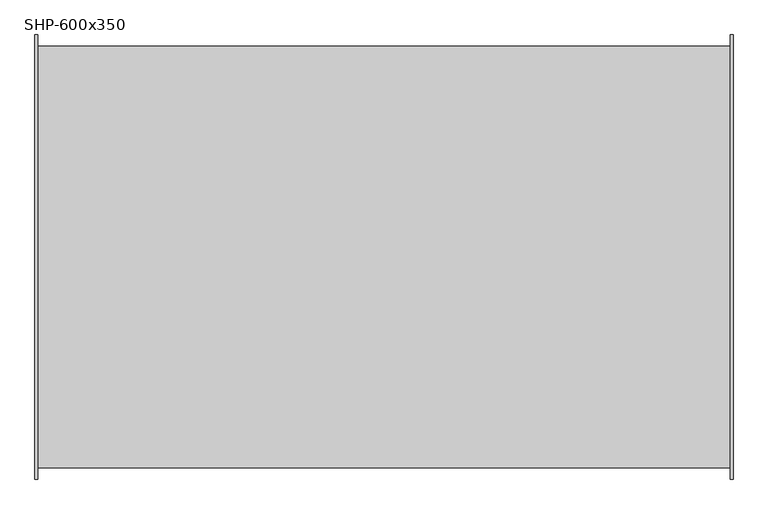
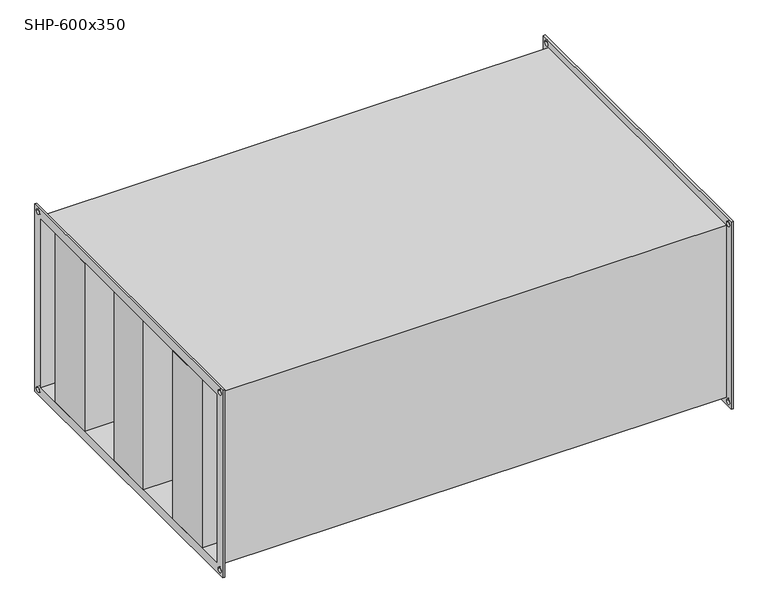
"""IFC4 building model written with IfcOpenShell, lengths in millimetres: damper geometry, СВ_Шумоглушитель_КанальныйПрямоугольный_200-1000_SHP : SHP-600x350."""

from ifc_helpers import new_model, si_unit, frame, origin, place, context, project, spatial, polyline, circle_curve, outline, extrude, source, transform, mapped, element, save
from ifc_brep_helpers import plane_surface, revolved_surface, advanced_brep


def shp_600x350_d1743a3e(model_context):
    return source(origin(), model_context, "Body", "SolidModel", [
        extrude(outline(polyline([(502.5, 250.0), (502.5, 150.0), (-502.5, 150.0), (-502.5, 250.0), (502.5, 250.0)])), frame((0.0, 0.0, -175.0), z_axis=(0.0, 0.0, 1.0), x_axis=(1.0, 0.0, 0.0)), (0.0, 0.0, 1.0), 350.0),
        extrude(outline(polyline([(502.5, 50.0), (502.5, -50.0), (-502.5, -50.0), (-502.5, 50.0), (502.5, 50.0)])), frame((0.0, 0.0, -175.0), z_axis=(0.0, 0.0, 1.0), x_axis=(1.0, 0.0, 0.0)), (0.0, 0.0, 1.0), 350.0),
        extrude(outline(polyline([(502.5, -150.0), (502.5, -250.0), (-502.5, -250.0), (-502.5, -150.0), (502.5, -150.0)])), frame((0.0, 0.0, -175.0), z_axis=(0.0, 0.0, 1.0), x_axis=(1.0, 0.0, 0.0)), (0.0, 0.0, 1.0), 350.0),
        advanced_brep(
        [(498.5, -304.0, 179.0), (-498.5, -304.0, 179.0), (-498.5, -304.0, -179.0), (498.5, -304.0, -179.0), (-498.5, 304.0, -179.0), (498.5, 304.0, -179.0), (-498.5, 304.0, 179.0), (498.5, 304.0, 179.0), (-502.5, -320.0, 195.0), (-502.5, 320.0, 195.0), (-502.5, 320.0, -195.0), (-502.5, -320.0, -195.0), (-502.5, -300.0, 175.0), (-502.5, -300.0, -175.0), (-502.5, 300.0, -175.0), (-502.5, 300.0, 175.0), (-502.5, 305.0, 185.0), (-502.5, 315.0, 185.0), (-502.5, -315.0, 185.0), (-502.5, -305.0, 185.0), (-502.5, -315.0, -185.0), (-502.5, -305.0, -185.0), (-502.5, 305.0, -185.0), (-502.5, 315.0, -185.0), (-498.5, -320.0, 195.0), (-498.5, -320.0, -195.0), (-498.5, 320.0, -195.0), (-498.5, 320.0, 195.0), (-498.5, 315.0, 185.0), (-498.5, 305.0, 185.0), (-498.5, -305.0, 185.0), (-498.5, -315.0, 185.0), (-498.5, -305.0, -185.0), (-498.5, -315.0, -185.0), (-498.5, 315.0, -185.0), (-498.5, 305.0, -185.0), (498.5, 320.0, 195.0), (498.5, 320.0, -195.0), (498.5, -320.0, -195.0), (498.5, -320.0, 195.0), (498.5, 305.0, 185.0), (498.5, 315.0, 185.0), (498.5, -315.0, 185.0), (498.5, -305.0, 185.0), (498.5, -315.0, -185.0), (498.5, -305.0, -185.0), (498.5, 305.0, -185.0), (498.5, 315.0, -185.0), (502.5, 320.0, 195.0), (502.5, -320.0, 195.0), (502.5, -320.0, -195.0), (502.5, 320.0, -195.0), (502.5, 300.0, 175.0), (502.5, 300.0, -175.0), (502.5, -300.0, -175.0), (502.5, -300.0, 175.0), (502.5, 315.0, 185.0), (502.5, 305.0, 185.0), (502.5, -305.0, 185.0), (502.5, -315.0, 185.0), (502.5, -305.0, -185.0), (502.5, -315.0, -185.0), (502.5, 315.0, -185.0), (502.5, 305.0, -185.0)],
        [
            (0, 1),
            (1, 2),
            (2, 3),
            (3, 0),
            (2, 4),
            (4, 5),
            (5, 3),
            (4, 6),
            (6, 7),
            (7, 5),
            (0, 7),
            (6, 1),
            (8, 9),
            (9, 10),
            (10, 11),
            (11, 8),
            (12, 13),
            (13, 14),
            (14, 15),
            (15, 12),
            (16, 17, circle_curve(frame((-502.5, 310.0, 185.0), z_axis=(1.0, 0.0, 0.0), x_axis=(0.0, 1.0, 0.0)), 5.0)),
            (17, 16, circle_curve(frame((-502.5, 310.0, 185.0), z_axis=(1.0, 0.0, 0.0), x_axis=(0.0, 1.0, 0.0)), 5.0)),
            (18, 19, circle_curve(frame((-502.5, -310.0, 185.0), z_axis=(1.0, 0.0, 0.0), x_axis=(0.0, 1.0, 0.0)), 5.0)),
            (19, 18, circle_curve(frame((-502.5, -310.0, 185.0), z_axis=(1.0, 0.0, 0.0), x_axis=(0.0, 1.0, 0.0)), 5.0)),
            (20, 21, circle_curve(frame((-502.5, -310.0, -185.0), z_axis=(1.0, 0.0, 0.0), x_axis=(0.0, 1.0, 0.0)), 5.0)),
            (21, 20, circle_curve(frame((-502.5, -310.0, -185.0), z_axis=(1.0, 0.0, 0.0), x_axis=(0.0, 1.0, 0.0)), 5.0)),
            (22, 23, circle_curve(frame((-502.5, 310.0, -185.0), z_axis=(1.0, 0.0, 0.0), x_axis=(0.0, 1.0, 0.0)), 5.0)),
            (23, 22, circle_curve(frame((-502.5, 310.0, -185.0), z_axis=(1.0, 0.0, 0.0), x_axis=(0.0, 1.0, 0.0)), 5.0)),
            (24, 25),
            (25, 26),
            (26, 27),
            (27, 24),
            (28, 29, circle_curve(frame((-498.5, 310.0, 185.0), z_axis=(-1.0, 0.0, 0.0), x_axis=(0.0, 1.0, 0.0)), 5.0)),
            (29, 28, circle_curve(frame((-498.5, 310.0, 185.0), z_axis=(-1.0, 0.0, 0.0), x_axis=(0.0, 1.0, 0.0)), 5.0)),
            (30, 31, circle_curve(frame((-498.5, -310.0, 185.0), z_axis=(-1.0, 0.0, 0.0), x_axis=(0.0, 1.0, 0.0)), 5.0)),
            (31, 30, circle_curve(frame((-498.5, -310.0, 185.0), z_axis=(-1.0, 0.0, 0.0), x_axis=(0.0, 1.0, 0.0)), 5.0)),
            (32, 33, circle_curve(frame((-498.5, -310.0, -185.0), z_axis=(-1.0, 0.0, 0.0), x_axis=(0.0, 1.0, 0.0)), 5.0)),
            (33, 32, circle_curve(frame((-498.5, -310.0, -185.0), z_axis=(-1.0, 0.0, 0.0), x_axis=(0.0, 1.0, 0.0)), 5.0)),
            (34, 35, circle_curve(frame((-498.5, 310.0, -185.0), z_axis=(-1.0, 0.0, 0.0), x_axis=(0.0, 1.0, 0.0)), 5.0)),
            (35, 34, circle_curve(frame((-498.5, 310.0, -185.0), z_axis=(-1.0, 0.0, 0.0), x_axis=(0.0, 1.0, 0.0)), 5.0)),
            (11, 25),
            (24, 8),
            (10, 26),
            (9, 27),
            (36, 37),
            (37, 38),
            (38, 39),
            (39, 36),
            (40, 41, circle_curve(frame((498.5, 310.0, 185.0), z_axis=(1.0, 0.0, 0.0), x_axis=(0.0, 1.0, 0.0)), 5.0)),
            (41, 40, circle_curve(frame((498.5, 310.0, 185.0), z_axis=(1.0, 0.0, 0.0), x_axis=(0.0, 1.0, 0.0)), 5.0)),
            (42, 43, circle_curve(frame((498.5, -310.0, 185.0), z_axis=(1.0, 0.0, 0.0), x_axis=(0.0, 1.0, 0.0)), 5.0)),
            (43, 42, circle_curve(frame((498.5, -310.0, 185.0), z_axis=(1.0, 0.0, 0.0), x_axis=(0.0, 1.0, 0.0)), 5.0)),
            (44, 45, circle_curve(frame((498.5, -310.0, -185.0), z_axis=(1.0, 0.0, 0.0), x_axis=(0.0, 1.0, 0.0)), 5.0)),
            (45, 44, circle_curve(frame((498.5, -310.0, -185.0), z_axis=(1.0, 0.0, 0.0), x_axis=(0.0, 1.0, 0.0)), 5.0)),
            (46, 47, circle_curve(frame((498.5, 310.0, -185.0), z_axis=(1.0, 0.0, 0.0), x_axis=(0.0, 1.0, 0.0)), 5.0)),
            (47, 46, circle_curve(frame((498.5, 310.0, -185.0), z_axis=(1.0, 0.0, 0.0), x_axis=(0.0, 1.0, 0.0)), 5.0)),
            (48, 49),
            (49, 50),
            (50, 51),
            (51, 48),
            (52, 53),
            (53, 54),
            (54, 55),
            (55, 52),
            (56, 57, circle_curve(frame((502.5, 310.0, 185.0), z_axis=(-1.0, 0.0, 0.0), x_axis=(0.0, 1.0, 0.0)), 5.0)),
            (57, 56, circle_curve(frame((502.5, 310.0, 185.0), z_axis=(-1.0, 0.0, 0.0), x_axis=(0.0, 1.0, 0.0)), 5.0)),
            (58, 59, circle_curve(frame((502.5, -310.0, 185.0), z_axis=(-1.0, 0.0, 0.0), x_axis=(0.0, 1.0, 0.0)), 5.0)),
            (59, 58, circle_curve(frame((502.5, -310.0, 185.0), z_axis=(-1.0, 0.0, 0.0), x_axis=(0.0, 1.0, 0.0)), 5.0)),
            (60, 61, circle_curve(frame((502.5, -310.0, -185.0), z_axis=(-1.0, 0.0, 0.0), x_axis=(0.0, 1.0, 0.0)), 5.0)),
            (61, 60, circle_curve(frame((502.5, -310.0, -185.0), z_axis=(-1.0, 0.0, 0.0), x_axis=(0.0, 1.0, 0.0)), 5.0)),
            (62, 63, circle_curve(frame((502.5, 310.0, -185.0), z_axis=(-1.0, 0.0, 0.0), x_axis=(0.0, 1.0, 0.0)), 5.0)),
            (63, 62, circle_curve(frame((502.5, 310.0, -185.0), z_axis=(-1.0, 0.0, 0.0), x_axis=(0.0, 1.0, 0.0)), 5.0)),
            (39, 49),
            (48, 36),
            (38, 50),
            (37, 51),
            (15, 52),
            (55, 12),
            (14, 53),
            (13, 54),
            (16, 29),
            (28, 17),
            (40, 57),
            (56, 41),
            (18, 31),
            (30, 19),
            (42, 59),
            (58, 43),
            (20, 33),
            (32, 21),
            (44, 61),
            (60, 45),
            (22, 35),
            (34, 23),
            (46, 63),
            (62, 47),
        ],
        [
            plane_surface(frame((498.5, -304.0, 179.0), z_axis=(0.0, -1.0, 0.0), x_axis=(-1.0, 0.0, 0.0))),
            plane_surface(frame((498.5, -304.0, -179.0), z_axis=(0.0, 0.0, -1.0), x_axis=(-1.0, 0.0, 0.0))),
            plane_surface(frame((498.5, 304.0, -179.0), z_axis=(0.0, 1.0, 0.0), x_axis=(-1.0, 0.0, 0.0))),
            plane_surface(frame((498.5, 304.0, 179.0), z_axis=(0.0, 0.0, 1.0), x_axis=(-1.0, 0.0, 0.0))),
            plane_surface(frame((-502.5, -320.0, 195.0), z_axis=(-1.0, 0.0, 0.0), x_axis=(0.0, 0.0, 1.0))),
            plane_surface(frame((-498.5, -320.0, 195.0), z_axis=(1.0, 0.0, 0.0), x_axis=(0.0, 0.0, -1.0))),
            plane_surface(frame((-498.5, -320.0, 195.0), z_axis=(0.0, -1.0, 0.0), x_axis=(-1.0, 0.0, 0.0))),
            plane_surface(frame((-498.5, -320.0, -195.0), z_axis=(0.0, 0.0, -1.0), x_axis=(-1.0, 0.0, 0.0))),
            plane_surface(frame((-498.5, 320.0, -195.0), z_axis=(0.0, 1.0, 0.0), x_axis=(-1.0, 0.0, 0.0))),
            plane_surface(frame((-498.5, 320.0, 195.0), z_axis=(0.0, 0.0, 1.0), x_axis=(-1.0, 0.0, 0.0))),
            plane_surface(frame((498.5, 300.0, -175.0), z_axis=(-1.0, 0.0, 0.0), x_axis=(0.0, 0.0, 1.0))),
            plane_surface(frame((502.5, 300.0, -175.0), z_axis=(1.0, 0.0, 0.0), x_axis=(0.0, 0.0, -1.0))),
            plane_surface(frame((502.5, 320.0, 195.0), z_axis=(0.0, 0.0, 1.0), x_axis=(-1.0, 0.0, 0.0))),
            plane_surface(frame((502.5, -320.0, 195.0), z_axis=(0.0, -1.0, 0.0), x_axis=(-1.0, 0.0, 0.0))),
            plane_surface(frame((502.5, -320.0, -195.0), z_axis=(0.0, 0.0, -1.0), x_axis=(-1.0, 0.0, 0.0))),
            plane_surface(frame((502.5, 320.0, -195.0), z_axis=(0.0, 1.0, 0.0), x_axis=(-1.0, 0.0, 0.0))),
            plane_surface(frame((-498.5, -300.0, 175.0), z_axis=(0.0, 0.0, -1.0), x_axis=(-1.0, 0.0, 0.0))),
            plane_surface(frame((-498.5, 300.0, 175.0), z_axis=(0.0, -1.0, 0.0), x_axis=(-1.0, 0.0, 0.0))),
            plane_surface(frame((-498.5, 300.0, -175.0), z_axis=(0.0, 0.0, 1.0), x_axis=(-1.0, 0.0, 0.0))),
            plane_surface(frame((-498.5, -300.0, -175.0), z_axis=(0.0, 1.0, 0.0), x_axis=(-1.0, 0.0, 0.0))),
            revolved_surface(polyline([(-498.5, 315.0, 185.0), (-502.5, 315.0, 185.0)]), (-502.5, 310.0, 185.0), (1.0, 0.0, 0.0)),
            revolved_surface(polyline([(502.5, 315.0, 185.0), (498.5, 315.0, 185.0)]), (-502.5, 310.0, 185.0), (1.0, 0.0, 0.0)),
            revolved_surface(polyline([(-498.5, -305.0, 185.0), (-502.5, -305.0, 185.0)]), (0.0, -310.0, 185.0), (1.0, 0.0, 0.0)),
            revolved_surface(polyline([(502.5, -305.0, 185.0), (498.5, -305.0, 185.0)]), (0.0, -310.0, 185.0), (1.0, 0.0, 0.0)),
            revolved_surface(polyline([(-498.5, -305.0, -185.0), (-502.5, -305.0, -185.0)]), (0.0, -310.0, -185.0), (1.0, 0.0, 0.0)),
            revolved_surface(polyline([(502.5, -305.0, -185.0), (498.5, -305.0, -185.0)]), (0.0, -310.0, -185.0), (1.0, 0.0, 0.0)),
            revolved_surface(polyline([(-498.5, 315.0, -185.0), (-502.5, 315.0, -185.0)]), (0.0, 310.0, -185.0), (1.0, 0.0, 0.0)),
            revolved_surface(polyline([(502.5, 315.0, -185.0), (498.5, 315.0, -185.0)]), (0.0, 310.0, -185.0), (1.0, 0.0, 0.0)),
        ],
        [
            (0, [[1, 2, 3, 4]]),
            (1, [[-3, 5, 6, 7]]),
            (2, [[-6, 8, 9, 10]]),
            (3, [[-1, 11, -9, 12]]),
            (4, [[13, 14, 15, 16], [17, 18, 19, 20], [21, 22], [23, 24], [25, 26], [27, 28]]),
            (5, [[29, 30, 31, 32], [-2, -12, -8, -5], [33, 34], [35, 36], [37, 38], [39, 40]]),
            (6, [[-16, 41, -29, 42]]),
            (7, [[-15, 43, -30, -41]]),
            (8, [[-14, 44, -31, -43]]),
            (9, [[-13, -42, -32, -44]]),
            (10, [[45, 46, 47, 48], [-4, -7, -10, -11], [49, 50], [51, 52], [53, 54], [55, 56]]),
            (11, [[57, 58, 59, 60], [61, 62, 63, 64], [65, 66], [67, 68], [69, 70], [71, 72]]),
            (12, [[-48, 73, -57, 74]]),
            (13, [[-47, 75, -58, -73]]),
            (14, [[-46, 76, -59, -75]]),
            (15, [[-45, -74, -60, -76]]),
            (16, [[-20, 77, -64, 78]]),
            (17, [[-77, -19, 79, -61]]),
            (18, [[-79, -18, 80, -62]]),
            (19, [[-80, -17, -78, -63]]),
            (20, [[81, -33, 82, -21]]),
            (21, [[83, -65, 84, -49]]),
            (20, [[-81, -22, -82, -34]]),
            (21, [[-83, -50, -84, -66]]),
            (22, [[85, -35, 86, -23]]),
            (23, [[87, -67, 88, -51]]),
            (22, [[-85, -24, -86, -36]]),
            (23, [[-87, -52, -88, -68]]),
            (24, [[89, -37, 90, -25]]),
            (25, [[91, -69, 92, -53]]),
            (24, [[-89, -26, -90, -38]]),
            (25, [[-91, -54, -92, -70]]),
            (26, [[93, -39, 94, -27]]),
            (27, [[95, -71, 96, -55]]),
            (26, [[-93, -28, -94, -40]]),
            (27, [[-95, -56, -96, -72]]),
        ],
    ),
    ])


if __name__ == "__main__":
    model = new_model("IFC4")
    model_context = context("Model", 3, world=origin())
    ifc_project = project(units=[si_unit("LENGTHUNIT", "METRE", prefix="MILLI")], contexts=[model_context])
    site = spatial("IfcSite", under=ifc_project)
    building = spatial("IfcBuilding", under=site)
    placement = place(None, origin())
    shp_600x350_shape = shp_600x350_d1743a3e(model_context)
    element("IfcDamper", 1, ObjectType="СВ_Шумоглушитель_КанальныйПрямоугольный_200-1000_SHP : SHP-600x350", at=placement, inside=building, context=model_context, shape_type="MappedRepresentation", body=[
        mapped(shp_600x350_shape, transform((0.0, 0.0, 0.0), x_axis=(1.0, 0.0, 0.0), y_axis=(0.0, 1.0, 0.0), z_axis=(0.0, 0.0, 1.0))),
    ])
    save(model, "model.ifc")
